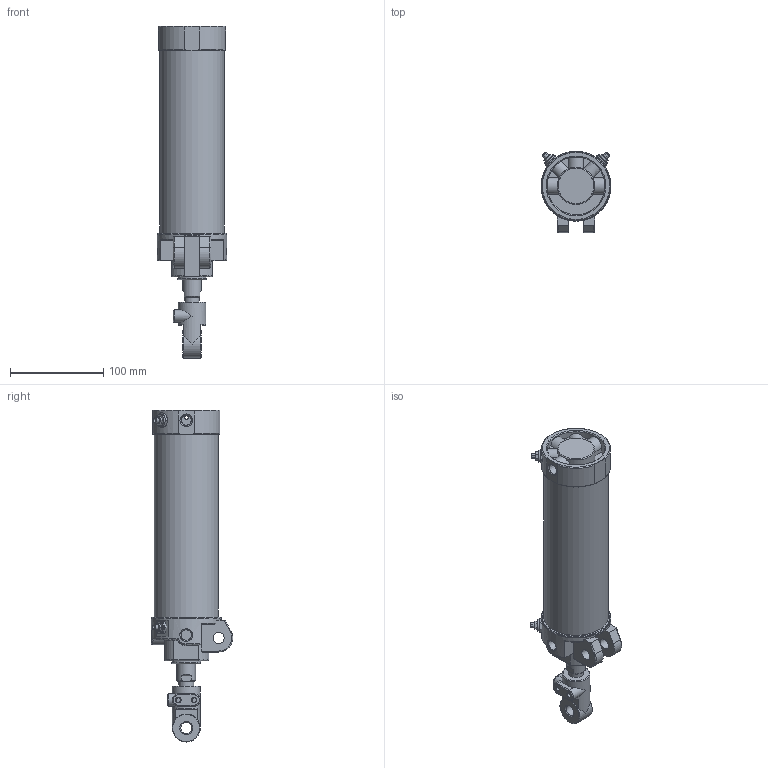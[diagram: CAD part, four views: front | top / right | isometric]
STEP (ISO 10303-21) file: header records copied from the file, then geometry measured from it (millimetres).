
FILE_DESCRIPTION((''),'2;1');
FILE_NAME('I:\3D電子目錄\氣缸\DCK\DCK\DCK-1A-63x150-I.stp','2008-02-26T15:25:48',('Administrator'),(''),'Autodesk Inventor 11','Autodesk Inventor 11','');
FILE_SCHEMA(('AUTOMOTIVE_DESIGN { 1 0 10303 214 1 1 1 1 }'));
Length unit declared in the file: millimetre
Products named in the file (6): DCK-1A-63-I; DCK-1B-63-I; 緩衝針; 緩衝針-1; 緩衝針-201; 緩衝針-3
Assembly tree (8 placements, depth 3):
  DCK-1A-63-I
    DCK-1B-63-I
    緩衝針  x4
      緩衝針-1
      緩衝針-201
      緩衝針-3
Bounding box: 75 x 87.29 x 356 mm (x, y, z)
Volume: 394466.3 mm3; surface area: 164902.4 mm2
Topology: 17 solids, 17 shells, 639 faces, 1407 edges, 875 vertices
Faces by surface type: plane 233, cylinder 179, cone 139, torus 49, bspline 39
Full cylindrical faces by diameter (mm): 2 x1, 3 x2, 3.8 x2, 4 x6, 4.6 x4, 5 x8, 5.1 x4, 5.2 x12, 5.5 x4, 7 x1, 7.25 x1, 7.9 x4, 8 x2, 11.3 x3, 12 x3, 12.8 x4, 16 x3, 20 x1, 21 x1, 22 x2, 23 x1, 24.7 x1, 26 x1, 27 x1, 28 x1, 29 x1, 30 x2, 31 x1, 33 x1, 62 x1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
Entity records: 13902 total; most frequent: CARTESIAN_POINT 5736, DIRECTION 1661, ORIENTED_EDGE 1492, EDGE_CURVE 746, AXIS2_PLACEMENT_3D 726, EDGE_LOOP 584, VERTEX_POINT 538, FACE_OUTER_BOUND 390
